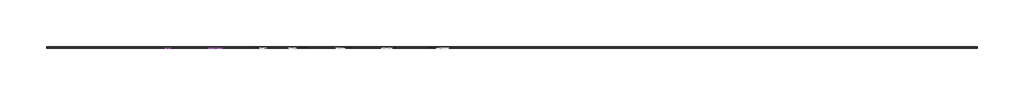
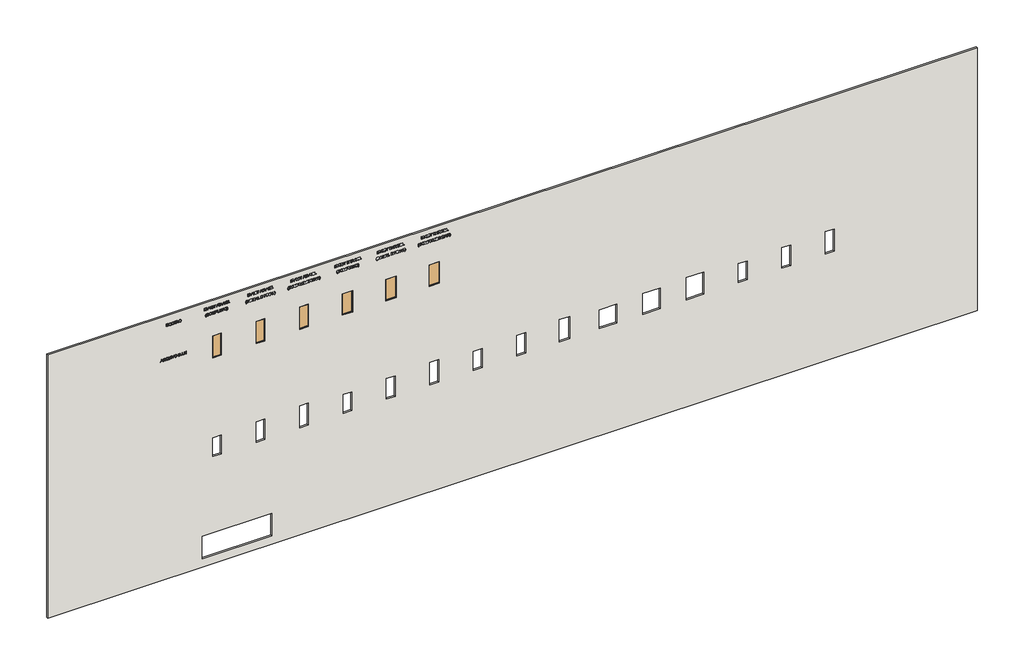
# One storey, part 1 of 5: 6 doors, 3 proxies, 1 wall.
"""IFC4 building model written with IfcOpenShell, lengths in millimetres."""

from ifc_helpers import new_model, si_unit, frame, origin, place, context, project, spatial, polyline, outline, extrude, transform, mapped, element, save
from components import bv1sl_10mm_laminado_7e01d13e, bv1sl_10mm_laminado_0e138f9b, bv1sl_10mm_laminado_d97edf1c, bv8sl_8mm_laminado_ab84e5fa, bv8sl_8mm_laminado_92a510f9, bv8sl_8mm_laminado_66e587da

model = new_model("IFC4")

# Units and contexts
model_context = context("Model", 3, world=origin())
ifc_project = project(units=[si_unit("LENGTHUNIT", "METRE", prefix="MILLI")], contexts=[model_context])

# Site, building, storey
site = spatial("IfcSite", under=ifc_project)
building = spatial("IfcBuilding", under=site)
storey = spatial("IfcBuildingStorey", under=building, Name="01 - Marelli - Planta Baixa - Painel Simples", Elevation=0.0)

# Proxies
placement = place(None, origin())
element("IfcBuildingElementProxy", 1, Name="300mm Arial", ObjectType="300mm Arial", at=placement, inside=storey, context=model_context, shape_type="SweptSolid", body=[
    extrude(outline(polyline([(1600.0, -7636.3146377), (1600.0, -7596.5098058), (1694.1777908, -7562.076051), (1694.1777908, -7437.9526659), (1600.0, -7403.4453347), (1600.0, -7363.6405028), (1901.3689304, -7483.9379153), (1901.3689304, -7516.0172252), (1600.0, -7636.3146377)]), holes=[polyline([(1731.8489071, -7548.243688), (1812.415064, -7518.739552), (1863.6978141, -7499.9775703), (1805.9403409, -7478.8611437), (1731.8489071, -7451.7114525), (1731.8489071, -7548.243688)])]), frame((0.0, 8778.3159498, 0.0), z_axis=(0.0, 1.0, 0.0), x_axis=(0.0, 0.0, 1.0)), (0.0, 0.0, 1.0), 10.0),
    extrude(outline(polyline([(1600.0, -7323.3942126), (1600.0, -7285.7230963), (1731.8489071, -7285.7230963), (1731.8489071, -7240.2528817), (1730.5245319, -7218.4006911), (1723.350833, -7200.484838), (1703.816299, -7180.582422), (1662.4663628, -7152.2555084), (1600.0, -7113.0392877), (1600.0, -7069.2613303), (1681.6698029, -7119.5140108), (1720.4445652, -7150.0482164), (1736.5577966, -7171.4589486), (1746.5457928, -7134.3488523), (1754.5610217, -7119.9669655), (1764.5904046, -7108.3671864), (1789.2017101, -7093.0540983), (1818.8897871, -7087.9497357), (1842.7561316, -7091.0307474), (1864.4703663, -7100.2737825), (1881.9815493, -7114.6763626), (1893.2387384, -7133.2360093), (1899.3363824, -7158.629064), (1901.3689304, -7193.5318683), (1901.3689304, -7323.3942126), (1600.0, -7323.3942126)]), holes=[polyline([(1769.5200234, -7285.7230963), (1863.6978141, -7285.7230963), (1863.6978141, -7191.9131875), (1860.4420585, -7162.1055488), (1850.6747915, -7141.5501423), (1835.8675412, -7129.6031746), (1817.4918355, -7125.620852), (1804.1837044, -7127.7085823), (1791.9240369, -7133.9717732), (1781.7888879, -7144.254075), (1774.8543123, -7158.3991377), (1770.8535956, -7177.1887106), (1769.5200234, -7201.404543), (1769.5200234, -7285.7230963)])]), frame((0.0, 8778.3159498, 0.0), z_axis=(0.0, 1.0, 0.0), x_axis=(0.0, 0.0, 1.0)), (0.0, 0.0, 1.0), 10.0),
    extrude(outline(polyline([(1636.1260119, -6795.6307023), (1659.6520655, -6777.1814202), (1686.9673037, -6764.0664271), (1718.0349382, -6756.2305406), (1752.8181808, -6753.6185784), (1794.6463636, -6757.9227978), (1831.9863862, -6770.8354558), (1863.1827793, -6791.9610794), (1886.5800742, -6820.9041954), (1901.2033836, -6855.7702114), (1906.07782, -6894.6645354), (1901.3137481, -6933.2553567), (1887.0215326, -6967.9466288), (1863.6150407, -6996.93573), (1831.5081396, -7018.4200386), (1793.055274, -7031.7189727), (1750.6108888, -7036.1519507), (1708.2032918, -7031.7097756), (1670.3022493, -7018.3832504), (1638.6460036, -6996.8161684), (1614.9727972, -6967.6523232), (1600.2115321, -6932.8322924), (1595.2911105, -6894.2966534), (1599.5585416, -6855.9449554), (1612.360835, -6821.0881364), (1591.52032, -6790.1308665), (1577.1177399, -6759.063232), (1604.7088895, -6748.9096889), (1617.5295771, -6771.2953083), (1636.1260119, -6795.6307023)]), holes=[polyline([(1686.2315397, -6883.9223811), (1657.3895912, -6893.6344658), (1650.712533, -6873.2721974), (1640.6877487, -6853.9767867), (1634.8936072, -6873.6032912), (1632.9622268, -6894.5173826), (1634.8637168, -6916.2385151), (1640.568187, -6935.9316982), (1650.0756373, -6953.5969318), (1663.3860678, -6969.2342158), (1680.251158, -6982.0296115), (1700.4225876, -6991.1691798), (1723.9003567, -6996.6529208), (1750.6844652, -6998.4808344), (1778.1859436, -6996.6322274), (1802.0499888, -6991.0864063), (1822.2766007, -6981.8433712), (1838.8657795, -6968.903122), (1851.7899338, -6953.1577726), (1861.0214726, -6935.4994369), (1866.5603959, -6915.9281147), (1868.4067037, -6894.4438062), (1864.7554749, -6865.9605427), (1853.8017885, -6840.4019411), (1836.2354232, -6819.2027411), (1812.7461578, -6803.7976826), (1784.0605592, -6794.4166917), (1750.9051944, -6791.2896947), (1721.7321522, -6793.5015852), (1696.4586591, -6800.1372567), (1675.0847152, -6811.1967092), (1657.6103204, -6826.6799427), (1674.2569807, -6852.2477413), (1686.2315397, -6883.9223811)])]), frame((0.0, 8778.3159498, 0.0), z_axis=(0.0, 1.0, 0.0), x_axis=(0.0, 0.0, 1.0)), (0.0, 0.0, 1.0), 10.0),
    extrude(outline(polyline([(1901.3689304, -6499.3385434), (1728.8322747, -6499.3385434), (1681.6698029, -6504.1026152), (1664.9311721, -6510.057705), (1652.7542781, -6518.3948307), (1644.0952556, -6529.5278596), (1637.9102396, -6543.8706589), (1632.9622268, -6582.1855687), (1635.4638243, -6606.3554158), (1642.968617, -6626.4785609), (1655.0811317, -6641.9112106), (1671.4058953, -6652.0095714), (1694.9779341, -6657.5829836), (1728.8322747, -6659.4407877), (1901.3689304, -6659.4407877), (1901.3689304, -6697.111904), (1727.5078995, -6697.111904), (1684.7324205, -6694.2516215), (1652.0553023, -6685.6707739), (1627.6923172, -6670.4036711), (1609.8592375, -6647.4846228), (1598.9331422, -6616.904432), (1595.2911105, -6578.6539015), (1599.4757682, -6539.5480454), (1612.0297412, -6508.7563224), (1631.2515755, -6486.2235502), (1655.4398167, -6471.8945465), (1686.7925597, -6464.2242069), (1727.5078995, -6461.6674271), (1901.3689304, -6461.6674271), (1901.3689304, -6499.3385434)])), frame((0.0, 8778.3159498, 0.0), z_axis=(0.0, 1.0, 0.0), x_axis=(0.0, 0.0, 1.0)), (0.0, 0.0, 1.0), 10.0),
    extrude(outline(polyline([(-6353.3629677, 8778.3159498), (-6391.034084, 8778.3159498), (-6391.034084, 8788.3159498), (-6353.3629677, 8788.3159498), (-6353.3629677, 8778.3159498)])), frame((0.0, 0.0, 1600.0), z_axis=(0.0, 0.0, 1.0), x_axis=(1.0, 0.0, 0.0)), (0.0, 0.0, 1.0), 301.3689304),
    extrude(outline(polyline([(1600.0, -6188.9932922), (1600.0, -6150.0713771), (1901.3689304, -6035.2186183), (1901.3689304, -6075.5384849), (1684.2449769, -6156.0310655), (1635.3166715, -6172.0707205), (1684.2449769, -6188.3311046), (1901.3689304, -6268.602956), (1901.3689304, -6308.9228227), (1600.0, -6188.9932922)])), frame((0.0, 8778.3159498, 0.0), z_axis=(0.0, 1.0, 0.0), x_axis=(0.0, 0.0, 1.0)), (0.0, 0.0, 1.0), 10.0),
    extrude(outline(polyline([(1746.7113397, -6014.3229209), (1708.1665036, -6010.0187016), (1671.7002009, -5997.1060436), (1640.007167, -5975.8424642), (1615.7821376, -5946.485481), (1600.4138672, -5910.8377157), (1595.2911105, -5870.70179), (1599.9264236, -5832.892718), (1613.832363, -5797.7507904), (1636.7514113, -5767.7868019), (1668.4260511, -5745.5115471), (1706.8881137, -5731.6883811), (1750.1694304, -5727.0806591), (1792.8805301, -5731.4584548), (1830.8091638, -5744.5918421), (1862.4286213, -5766.0761506), (1886.2121922, -5795.5067102), (1901.1114131, -5830.9521404), (1906.07782, -5870.4810608), (1903.4336681, -5900.7715446), (1895.5012126, -5928.1465636), (1882.2804534, -5952.6061177), (1863.7713905, -5974.1502071), (1840.5902263, -5991.7257694), (1813.3531631, -6004.2797425), (1782.0602009, -6011.8121263), (1746.7113397, -6014.3229209)]), holes=[polyline([(1746.3434577, -5976.6518046), (1776.8799625, -5974.6882345), (1802.7121764, -5968.797524), (1823.8400992, -5958.9796733), (1840.263731, -5945.2346822), (1852.5762816, -5928.7673644), (1861.3709605, -5910.7825334), (1866.6477679, -5891.2801891), (1868.4067037, -5870.2603316), (1864.7554749, -5841.0964864), (1853.8017885, -5814.9676677), (1836.2078321, -5793.3086153), (1812.6357932, -5777.5540688), (1783.8122389, -5767.9523488), (1750.463736, -5764.7517754), (1723.9256486, -5766.6210758), (1700.5973316, -5772.228977), (1680.478785, -5781.5754789), (1663.5700088, -5794.6605816), (1650.1791041, -5810.642755), (1640.6141723, -5828.6804691), (1634.8752131, -5848.7737238), (1632.9622268, -5870.9225192), (1634.856819, -5892.6988341), (1640.5405959, -5912.557564), (1650.0135572, -5930.4987091), (1663.2757032, -5946.5222692), (1679.8349915, -5959.703941), (1699.19938, -5969.1194208), (1721.3688687, -5974.7687087), (1746.3434577, -5976.6518046)])]), frame((0.0, 8778.3159498, 0.0), z_axis=(0.0, 1.0, 0.0), x_axis=(0.0, 0.0, 1.0)), (0.0, 0.0, 1.0), 10.0),
    extrude(outline(polyline([(1600.0, -5557.5606357), (1600.0, -5443.4436408), (1605.1871361, -5395.1407348), (1611.6066769, -5377.10532), (1620.4910271, -5362.3624491), (1632.7598917, -5350.3235108), (1649.3329756, -5340.399894), (1668.8215242, -5333.7504269), (1689.8367832, -5331.5339379), (1715.055094, -5334.7804965), (1736.7049494, -5344.5201723), (1753.6643094, -5360.2931129), (1764.8111338, -5381.6394656), (1776.5557665, -5363.7695977), (1791.4825785, -5351.0684718), (1808.543106, -5343.4809057), (1826.6888854, -5340.951717), (1846.4073604, -5343.9591523), (1865.2429185, -5352.9814582), (1881.2549824, -5367.3104619), (1892.5029744, -5386.2379906), (1899.1524414, -5410.9320695), (1901.3689304, -5442.560724), (1901.3689304, -5557.5606357), (1600.0, -5557.5606357)]), holes=[polyline([(1778.9378025, -5519.8895194), (1863.6978141, -5519.8895194), (1863.6978141, -5456.3195106), (1859.7614768, -5407.9062401), (1854.1604734, -5395.4166463), (1845.230138, -5386.2012024), (1833.7890079, -5380.5174255), (1820.6556207, -5378.6228333), (1807.1267603, -5380.6553813), (1796.1178916, -5386.7530254), (1787.7577733, -5396.8605832), (1782.175164, -5410.9228724), (1778.9378025, -5451.0955863), (1778.9378025, -5519.8895194)]), polyline([(1637.6711163, -5519.8895194), (1741.2666861, -5519.8895194), (1741.2666861, -5446.3131204), (1740.0066903, -5419.4853259), (1736.2267028, -5399.776048), (1729.3381125, -5385.8609115), (1718.752308, -5376.4155413), (1705.2142506, -5371.007676), (1689.4689012, -5369.2050542), (1675.9124497, -5370.7409615), (1664.0850436, -5375.3486835), (1647.3464128, -5391.0204565), (1639.1426443, -5414.6752688), (1637.6711163, -5442.6343004), (1637.6711163, -5519.8895194)])]), frame((0.0, 8778.3159498, 0.0), z_axis=(0.0, 1.0, 0.0), x_axis=(0.0, 0.0, 1.0)), (0.0, 0.0, 1.0), 10.0),
    extrude(outline(polyline([(-5237.3561471, 8778.3159498), (-5275.0272634, 8778.3159498), (-5275.0272634, 8788.3159498), (-5237.3561471, 8788.3159498), (-5237.3561471, 8778.3159498)])), frame((0.0, 0.0, 1600.0), z_axis=(0.0, 0.0, 1.0), x_axis=(1.0, 0.0, 0.0)), (0.0, 0.0, 1.0), 37.6711163),
    extrude(outline(polyline([(-5119.6339087, 8778.3159498), (-5157.305025, 8778.3159498), (-5157.305025, 8788.3159498), (-5119.6339087, 8788.3159498), (-5119.6339087, 8778.3159498)])), frame((0.0, 0.0, 1600.0), z_axis=(0.0, 0.0, 1.0), x_axis=(1.0, 0.0, 0.0)), (0.0, 0.0, 1.0), 301.3689304),
    extrude(outline(polyline([(-5001.9116702, 8778.3159498), (-5039.5827865, 8778.3159498), (-5039.5827865, 8788.3159498), (-5001.9116702, 8788.3159498), (-5001.9116702, 8778.3159498)])), frame((0.0, 0.0, 1600.0), z_axis=(0.0, 0.0, 1.0), x_axis=(1.0, 0.0, 0.0)), (0.0, 0.0, 1.0), 37.6711163),
    extrude(outline(polyline([(1600.0, -4926.5694376), (1600.0, -4888.8983213), (1863.6978141, -4888.8983213), (1600.0, -4813.1882067), (1600.0, -4762.1261857), (1863.6978141, -4686.4160711), (1600.0, -4686.4160711), (1600.0, -4648.7449548), (1901.3689304, -4648.7449548), (1901.3689304, -4713.5657624), (1692.6326864, -4774.1927152), (1644.5872978, -4787.6571962), (1688.9538664, -4800.0916076), (1901.3689304, -4861.74863), (1901.3689304, -4926.5694376), (1600.0, -4926.5694376)])), frame((0.0, 8778.3159498, 0.0), z_axis=(0.0, 1.0, 0.0), x_axis=(0.0, 0.0, 1.0)), (0.0, 0.0, 1.0), 10.0),
])
element("IfcBuildingElementProxy", 2, Name="300mm Arial", ObjectType="300mm Arial", at=placement, inside=storey, context=model_context, shape_type="SweptSolid", body=[
    extrude(outline(polyline([(5700.0, -6993.7719449), (5700.0, -6956.1008286), (5963.6978141, -6956.1008286), (5700.0, -6880.390714), (5700.0, -6829.328693), (5963.6978141, -6753.6185784), (5700.0, -6753.6185784), (5700.0, -6715.9474621), (6001.3689304, -6715.9474621), (6001.3689304, -6780.7682697), (5792.6326864, -6841.3952225), (5744.5872978, -6854.8597035), (5788.9538664, -6867.2941149), (6001.3689304, -6928.9511373), (6001.3689304, -6993.7719449), (5700.0, -6993.7719449)])), frame((0.0, 8778.3159498, 0.0), z_axis=(0.0, 1.0, 0.0), x_axis=(0.0, 0.0, 1.0)), (0.0, 0.0, 1.0), 10.0),
    extrude(outline(polyline([(5846.7113397, -6664.1496772), (5808.1665036, -6659.8454579), (5771.7002009, -6646.9327998), (5740.007167, -6625.6692205), (5715.7821376, -6596.3122373), (5700.4138672, -6560.664472), (5695.2911105, -6520.5285463), (5699.9264236, -6482.7194742), (5713.832363, -6447.5775466), (5736.7514113, -6417.6135581), (5768.4260511, -6395.3383033), (5806.8881137, -6381.5151374), (5850.1694304, -6376.9074154), (5892.8805301, -6381.2852111), (5930.8091638, -6394.4185983), (5962.4286213, -6415.9029069), (5986.2121922, -6445.3334665), (6001.1114131, -6480.7788967), (6006.07782, -6520.3078171), (6003.4336681, -6550.5983009), (5995.5012126, -6577.9733198), (5982.2804534, -6602.432874), (5963.7713905, -6623.9769633), (5940.5902263, -6641.5525257), (5913.3531631, -6654.1064987), (5882.0602009, -6661.6388826), (5846.7113397, -6664.1496772)]), holes=[polyline([(5846.3434577, -6626.4785609), (5876.8799625, -6624.5149908), (5902.7121764, -6618.6242803), (5923.8400992, -6608.8064296), (5940.263731, -6595.0614385), (5952.5762816, -6578.5941207), (5961.3709605, -6560.6092897), (5966.6477679, -6541.1069454), (5968.4067037, -6520.0870879), (5964.7554749, -6490.9232427), (5953.8017885, -6464.794424), (5936.2078321, -6443.1353716), (5912.6357932, -6427.3808251), (5883.8122389, -6417.779105), (5850.463736, -6414.5785317), (5823.9256486, -6416.4478321), (5800.5973316, -6422.0557332), (5780.478785, -6431.4022352), (5763.5700088, -6444.4873379), (5750.1791041, -6460.4695113), (5740.6141723, -6478.5072254), (5734.8752131, -6498.6004801), (5732.9622268, -6520.7492755), (5734.856819, -6542.5255903), (5740.5405959, -6562.3843203), (5750.0135572, -6580.3254653), (5763.2757032, -6596.3490255), (5779.8349915, -6609.5306972), (5799.19938, -6618.9461771), (5821.3688687, -6624.5954649), (5846.3434577, -6626.4785609)])]), frame((0.0, 8778.3159498, 0.0), z_axis=(0.0, 1.0, 0.0), x_axis=(0.0, 0.0, 1.0)), (0.0, 0.0, 1.0), 10.0),
    extrude(outline(polyline([(5700.0, -6325.1096305), (5700.0, -6216.1429835), (5705.1503479, -6167.6929247), (5711.5055094, -6148.1491937), (5720.2702979, -6131.6772774), (5732.088507, -6117.3298796), (5747.6039302, -6104.1597042), (5767.2580258, -6092.7185741), (5791.4922522, -6083.5583124), (5819.9571216, -6077.5434418), (5852.303146, -6075.5384849), (5890.3789325, -6078.499935), (5923.9665587, -6087.3842852), (5952.5142015, -6102.2283237), (5975.470038, -6123.0688387), (5988.6586075, -6143.3391366), (5997.0279229, -6167.3618309), (6001.3689304, -6221.1461786), (6001.3689304, -6325.1096305), (5700.0, -6325.1096305)]), holes=[polyline([(5737.6711163, -6287.4385141), (5963.6978141, -6287.4385141), (5963.6978141, -6221.8083662), (5962.189498, -6190.06015), (5957.6645494, -6168.3919005), (5945.0829852, -6147.10073), (5924.2608643, -6129.2860444), (5893.9473879, -6117.228712), (5852.8917572, -6113.2096012), (5821.9068962, -6115.2605434), (5795.9068361, -6121.4133697), (5774.7996067, -6131.245016), (5758.4932372, -6144.332418), (5749.6824634, -6156.5093121), (5743.1157698, -6172.2914497), (5739.0322797, -6193.2055411), (5737.6711163, -6220.7782966), (5737.6711163, -6287.4385141)])]), frame((0.0, 8778.3159498, 0.0), z_axis=(0.0, 1.0, 0.0), x_axis=(0.0, 0.0, 1.0)), (0.0, 0.0, 1.0), 10.0),
    extrude(outline(polyline([(5700.0, -6023.7407), (5700.0, -5802.4228917), (5737.6711163, -5802.4228917), (5737.6711163, -5986.0695837), (5836.5577966, -5986.0695837), (5836.5577966, -5816.5495603), (5874.2289129, -5816.5495603), (5874.2289129, -5986.0695837), (5963.6978141, -5986.0695837), (5963.6978141, -5807.1317812), (6001.3689304, -5807.1317812), (6001.3689304, -6023.7407), (5700.0, -6023.7407)])), frame((0.0, 8778.3159498, 0.0), z_axis=(0.0, 1.0, 0.0), x_axis=(0.0, 0.0, 1.0)), (0.0, 0.0, 1.0), 10.0),
    extrude(outline(polyline([(5700.0, -5745.9162172), (5700.0, -5557.5606357), (5737.6711163, -5557.5606357), (5737.6711163, -5708.2451009), (6001.3689304, -5708.2451009), (6001.3689304, -5745.9162172), (5700.0, -5745.9162172)])), frame((0.0, 8778.3159498, 0.0), z_axis=(0.0, 1.0, 0.0), x_axis=(0.0, 0.0, 1.0)), (0.0, 0.0, 1.0), 10.0),
    extrude(outline(polyline([(5846.7113397, -5529.3072985), (5808.1665036, -5525.0030791), (5771.7002009, -5512.0904211), (5740.007167, -5490.8268418), (5715.7821376, -5461.4698586), (5700.4138672, -5425.8220932), (5695.2911105, -5385.6861676), (5699.9264236, -5347.8770955), (5713.832363, -5312.7351679), (5736.7514113, -5282.7711794), (5768.4260511, -5260.4959246), (5806.8881137, -5246.6727586), (5850.1694304, -5242.0650367), (5892.8805301, -5246.4428324), (5930.8091638, -5259.5762196), (5962.4286213, -5281.0605281), (5986.2121922, -5310.4910878), (6001.1114131, -5345.936518), (6006.07782, -5385.4654384), (6003.4336681, -5415.7559222), (5995.5012126, -5443.1309411), (5982.2804534, -5467.5904953), (5963.7713905, -5489.1345846), (5940.5902263, -5506.7101469), (5913.3531631, -5519.26412), (5882.0602009, -5526.7965039), (5846.7113397, -5529.3072985)]), holes=[polyline([(5846.3434577, -5491.6361822), (5876.8799625, -5489.672612), (5902.7121764, -5483.7819016), (5923.8400992, -5473.9640508), (5940.263731, -5460.2190598), (5952.5762816, -5443.751742), (5961.3709605, -5425.7669109), (5966.6477679, -5406.2645667), (5968.4067037, -5385.2447092), (5964.7554749, -5356.080864), (5953.8017885, -5329.9520453), (5936.2078321, -5308.2929928), (5912.6357932, -5292.5384464), (5883.8122389, -5282.9367263), (5850.463736, -5279.736153), (5823.9256486, -5281.6054533), (5800.5973316, -5287.2133545), (5780.478785, -5296.5598565), (5763.5700088, -5309.6449592), (5750.1791041, -5325.6271326), (5740.6141723, -5343.6648467), (5734.8752131, -5363.7581014), (5732.9622268, -5385.9068968), (5734.856819, -5407.6832116), (5740.5405959, -5427.5419416), (5750.0135572, -5445.4830866), (5763.2757032, -5461.5066468), (5779.8349915, -5474.6883185), (5799.19938, -5484.1037983), (5821.3688687, -5489.7530862), (5846.3434577, -5491.6361822)])]), frame((0.0, 8778.3159498, 0.0), z_axis=(0.0, 1.0, 0.0), x_axis=(0.0, 0.0, 1.0)), (0.0, 0.0, 1.0), 10.0),
])
element("IfcBuildingElementProxy", 3, Name="300mm Arial", ObjectType="300mm Arial", at=placement, inside=storey, context=model_context, shape_type="SweptSolid", body=[
    extrude(outline(polyline([(6065.9244535, -2575.3198029), (6065.9244535, -2461.202808), (6071.1115897, -2412.899902), (6077.5311305, -2394.8644872), (6086.4154807, -2380.1216162), (6098.6843452, -2368.0826779), (6115.2574291, -2358.1590611), (6134.7459778, -2351.509594), (6155.7612368, -2349.293105), (6180.9795475, -2352.5396636), (6202.6294029, -2362.2793395), (6219.5887629, -2378.05228), (6230.7355874, -2399.3986328), (6242.4802201, -2381.5287649), (6257.407032, -2368.827639), (6274.4675596, -2361.2400728), (6292.613339, -2358.7108841), (6312.3318139, -2361.7183194), (6331.1673721, -2370.7406253), (6347.1794359, -2385.0696291), (6358.4274279, -2403.9971577), (6365.076895, -2428.6912366), (6367.293384, -2460.3198912), (6367.293384, -2575.3198029), (6065.9244535, -2575.3198029)]), holes=[polyline([(6244.862256, -2537.6486866), (6329.6222677, -2537.6486866), (6329.6222677, -2474.0786778), (6325.6859303, -2425.6654072), (6320.084927, -2413.1758135), (6311.1545915, -2403.9603695), (6299.7134615, -2398.2765927), (6286.5800742, -2396.3820004), (6273.0512139, -2398.4145484), (6262.0423452, -2404.5121925), (6253.6822268, -2414.6197503), (6248.0996175, -2428.6820396), (6244.862256, -2468.8547535), (6244.862256, -2537.6486866)]), polyline([(6103.5955698, -2537.6486866), (6207.1911397, -2537.6486866), (6207.1911397, -2464.0722875), (6205.9311439, -2437.244493), (6202.1511563, -2417.5352151), (6195.262566, -2403.6200787), (6184.6767616, -2394.1747084), (6171.1387042, -2388.7668431), (6155.3933548, -2386.9642213), (6141.8369032, -2388.5001287), (6130.0094971, -2393.1078507), (6113.2708663, -2408.7796236), (6105.0670978, -2432.4344359), (6103.5955698, -2460.3934676), (6103.5955698, -2537.6486866)])]), frame((0.0, 8778.3159498, 0.0), z_axis=(0.0, 1.0, 0.0), x_axis=(0.0, 0.0, 1.0)), (0.0, 0.0, 1.0), 10.0),
    extrude(outline(polyline([(6065.9244535, -2208.4678773), (6065.9244535, -2169.5459622), (6367.293384, -2054.6932033), (6367.293384, -2095.01307), (6150.1694304, -2175.5056505), (6101.2411251, -2191.5453055), (6150.1694304, -2207.8056897), (6367.293384, -2288.077541), (6367.293384, -2328.3974077), (6065.9244535, -2208.4678773)])), frame((0.0, 8778.3159498, 0.0), z_axis=(0.0, 1.0, 0.0), x_axis=(0.0, 0.0, 1.0)), (0.0, 0.0, 1.0), 10.0),
    extrude(outline(polyline([(6065.9244535, -1892.5308198), (6367.293384, -1892.5308198), (6367.293384, -1916.8110315), (6347.5565149, -1930.1191627), (6327.1942465, -1950.3250813), (6308.0459887, -1975.9572593), (6291.9511514, -2005.5441687), (6256.3401742, -2005.5441687), (6275.3596734, -1965.8864897), (6300.7803193, -1930.2019361), (6065.9244535, -1930.2019361), (6065.9244535, -1892.5308198)])), frame((0.0, 8778.3159498, 0.0), z_axis=(0.0, 1.0, 0.0), x_axis=(0.0, 0.0, 1.0)), (0.0, 0.0, 1.0), 10.0),
    extrude(outline(polyline([(6169.5200234, -1803.0619186), (6139.0961824, -1798.5921523), (6111.9832793, -1786.8015344), (6089.7264186, -1768.4350258), (6073.8707046, -1744.2375876), (6064.3793492, -1713.8597318), (6061.215564, -1676.9519706), (6064.1494229, -1646.8868146), (6072.9509996, -1619.9670496), (6087.0408801, -1597.5814302), (6105.83965, -1581.1187109), (6127.6826435, -1570.992759), (6150.9051944, -1567.6174417), (6173.6219076, -1570.5513006), (6193.5059295, -1579.3528773), (6210.3733189, -1594.3348716), (6224.0401351, -1615.809983), (6232.8509088, -1640.9363233), (6242.9492696, -1682.4702006), (6253.5810593, -1722.7164908), (6263.9921197, -1743.9800702), (6275.6355849, -1752.9747849), (6290.1117414, -1755.9730232), (6307.0894955, -1751.7423803), (6321.381711, -1739.0504514), (6331.0937957, -1717.1062904), (6334.3311572, -1685.1189509), (6331.0570075, -1653.8673754), (6321.2345582, -1631.3346032), (6305.0109622, -1616.913629), (6282.5333723, -1609.9974475), (6282.5333723, -1572.3263312), (6307.4941657, -1576.5753683), (6329.6958441, -1587.2623402), (6347.9979733, -1604.1481238), (6361.2601193, -1626.9935957), (6369.316735, -1654.8054745), (6372.0022735, -1686.5904789), (6369.4362966, -1715.929068), (6361.7383659, -1742.4349658), (6349.0832252, -1764.5170825), (6331.6456187, -1780.5843287), (6311.0718181, -1790.3791868), (6289.0080954, -1793.6441395), (6269.2712264, -1791.0045862), (6251.5577083, -1783.0859262), (6236.198635, -1769.7961892), (6223.5251003, -1751.0434045), (6214.4660061, -1728.0047945), (6204.9470595, -1691.9983442), (6190.5628735, -1637.1471388), (6182.7545782, -1621.0706956), (6173.4563607, -1611.5425519), (6162.5578566, -1606.8520565), (6149.9487012, -1605.288558), (6137.0084521, -1607.3762883), (6124.6752082, -1613.6394793), (6113.9330539, -1624.1701014), (6105.7660736, -1639.0601251), (6100.6065286, -1657.4358308), (6098.8866803, -1678.4234986), (6101.1583516, -1702.2622519), (6107.9733656, -1723.5994076), (6118.4763965, -1741.0554083), (6131.8121189, -1753.2506964), (6148.615129, -1761.0681888), (6169.5200234, -1765.3908023), (6169.5200234, -1803.0619186)])), frame((0.0, 8778.3159498, 0.0), z_axis=(0.0, 1.0, 0.0), x_axis=(0.0, 0.0, 1.0)), (0.0, 0.0, 1.0), 10.0),
    extrude(outline(polyline([(6065.9244535, -1435.7685346), (6065.9244535, -1398.0974183), (6329.6222677, -1398.0974183), (6329.6222677, -1299.210738), (6367.293384, -1299.210738), (6367.293384, -1534.6552149), (6329.6222677, -1534.6552149), (6329.6222677, -1435.7685346), (6065.9244535, -1435.7685346)])), frame((0.0, 8778.3159498, 0.0), z_axis=(0.0, 1.0, 0.0), x_axis=(0.0, 0.0, 1.0)), (0.0, 0.0, 1.0), 10.0),
    extrude(outline(polyline([(6065.9244535, -1172.0707205), (6065.9244535, -1138.0784241), (6367.293384, -1053.3184124), (6367.293384, -1087.3107088), (6065.9244535, -1172.0707205)])), frame((0.0, 8778.3159498, 0.0), z_axis=(0.0, 1.0, 0.0), x_axis=(0.0, 0.0, 1.0)), (0.0, 0.0, 1.0), 10.0),
    extrude(outline(polyline([(6065.9244535, -903.6640168), (6065.9244535, -789.5470219), (6071.1115897, -741.2441159), (6077.5311305, -723.2087011), (6086.4154807, -708.4658301), (6098.6843452, -696.4268918), (6115.2574291, -686.503275), (6134.7459778, -679.853808), (6155.7612368, -677.6373189), (6180.9795475, -680.8838776), (6202.6294029, -690.6235534), (6219.5887629, -706.3964939), (6230.7355874, -727.7428467), (6242.4802201, -709.8729788), (6257.407032, -697.1718529), (6274.4675596, -689.5842867), (6292.613339, -687.055098), (6312.3318139, -690.0625333), (6331.1673721, -699.0848393), (6347.1794359, -713.413843), (6358.4274279, -732.3413716), (6365.076895, -757.0354506), (6367.293384, -788.6641051), (6367.293384, -903.6640168), (6065.9244535, -903.6640168)]), holes=[polyline([(6244.862256, -865.9929005), (6329.6222677, -865.9929005), (6329.6222677, -802.4228917), (6325.6859303, -754.0096211), (6320.084927, -741.5200274), (6311.1545915, -732.3045834), (6299.7134615, -726.6208066), (6286.5800742, -724.7262143), (6273.0512139, -726.7587623), (6262.0423452, -732.8564064), (6253.6822268, -742.9639642), (6248.0996175, -757.0262535), (6244.862256, -797.1989674), (6244.862256, -865.9929005)]), polyline([(6103.5955698, -865.9929005), (6207.1911397, -865.9929005), (6207.1911397, -792.4165014), (6205.9311439, -765.5887069), (6202.1511563, -745.879429), (6195.262566, -731.9642926), (6184.6767616, -722.5189224), (6171.1387042, -717.111057), (6155.3933548, -715.3084352), (6141.8369032, -716.8443426), (6130.0094971, -721.4520646), (6113.2708663, -737.1238376), (6105.0670978, -760.7786499), (6103.5955698, -788.7376815), (6103.5955698, -865.9929005)])]), frame((0.0, 8778.3159498, 0.0), z_axis=(0.0, 1.0, 0.0), x_axis=(0.0, 0.0, 1.0)), (0.0, 0.0, 1.0), 10.0),
    extrude(outline(polyline([(6065.9244535, -536.8120912), (6065.9244535, -497.8901761), (6367.293384, -383.0374172), (6367.293384, -423.3572839), (6150.1694304, -503.8498644), (6101.2411251, -519.8895194), (6150.1694304, -536.1499036), (6367.293384, -616.4217549), (6367.293384, -656.7416216), (6065.9244535, -536.8120912)])), frame((0.0, 8778.3159498, 0.0), z_axis=(0.0, 1.0, 0.0), x_axis=(0.0, 0.0, 1.0)), (0.0, 0.0, 1.0), 10.0),
    extrude(outline(polyline([(6065.9244535, -220.8750337), (6367.293384, -220.8750337), (6367.293384, -245.1552454), (6347.5565149, -258.4633766), (6327.1942465, -278.6692952), (6308.0459887, -304.3014732), (6291.9511514, -333.8883826), (6256.3401742, -333.8883826), (6275.3596734, -294.2307036), (6300.7803193, -258.54615), (6065.9244535, -258.54615), (6065.9244535, -220.8750337)])), frame((0.0, 8778.3159498, 0.0), z_axis=(0.0, 1.0, 0.0), x_axis=(0.0, 0.0, 1.0)), (0.0, 0.0, 1.0), 10.0),
    extrude(outline(polyline([(6169.5200234, -131.4061325), (6139.0961824, -126.9363663), (6111.9832793, -115.1457483), (6089.7264186, -96.7792397), (6073.8707046, -72.5818015), (6064.3793492, -42.2039457), (6061.215564, -5.2961846), (6064.1494229, 24.7689715), (6072.9509996, 51.6887365), (6087.0408801, 74.0743559), (6105.83965, 90.5370752), (6127.6826435, 100.6630271), (6150.9051944, 104.0383444), (6173.6219076, 101.1044855), (6193.5059295, 92.3029088), (6210.3733189, 77.3209145), (6224.0401351, 55.845803), (6232.8509088, 30.7194628), (6242.9492696, -10.8144145), (6253.5810593, -51.0607048), (6263.9921197, -72.3242841), (6275.6355849, -81.3189989), (6290.1117414, -84.3172371), (6307.0894955, -80.0865942), (6321.381711, -67.3946653), (6331.0937957, -45.4505043), (6334.3311572, -13.4631649), (6331.0570075, 17.7884106), (6321.2345582, 40.3211828), (6305.0109622, 54.7421571), (6282.5333723, 61.6583386), (6282.5333723, 99.3294549), (6307.4941657, 95.0804178), (6329.6958441, 84.3934459), (6347.9979733, 67.5076623), (6361.2601193, 44.6621904), (6369.316735, 16.8503116), (6372.0022735, -14.9346928), (6369.4362966, -44.2732819), (6361.7383659, -70.7791797), (6349.0832252, -92.8612965), (6331.6456187, -108.9285426), (6311.0718181, -118.7234007), (6289.0080954, -121.9883534), (6269.2712264, -119.3488001), (6251.5577083, -111.4301402), (6236.198635, -98.1404031), (6223.5251003, -79.3876184), (6214.4660061, -56.3490084), (6204.9470595, -20.3425582), (6190.5628735, 34.5086473), (6182.7545782, 50.5850905), (6173.4563607, 60.1132342), (6162.5578566, 64.8037296), (6149.9487012, 66.3672281), (6137.0084521, 64.2794978), (6124.6752082, 58.0163068), (6113.9330539, 47.4856847), (6105.7660736, 32.5956609), (6100.6065286, 14.2199553), (6098.8866803, -6.7677125), (6101.1583516, -30.6064658), (6107.9733656, -51.9436215), (6118.4763965, -69.3996222), (6131.8121189, -81.5949104), (6148.615129, -89.4124028), (6169.5200234, -93.7350162), (6169.5200234, -131.4061325)])), frame((0.0, 8778.3159498, 0.0), z_axis=(0.0, 1.0, 0.0), x_axis=(0.0, 0.0, 1.0)), (0.0, 0.0, 1.0), 10.0),
    extrude(outline(polyline([(6065.9244535, 160.5450189), (6065.9244535, 348.9006004), (6103.5955698, 348.9006004), (6103.5955698, 198.2161352), (6367.293384, 198.2161352), (6367.293384, 160.5450189), (6065.9244535, 160.5450189)])), frame((0.0, 8778.3159498, 0.0), z_axis=(0.0, 1.0, 0.0), x_axis=(0.0, 0.0, 1.0)), (0.0, 0.0, 1.0), 10.0),
    extrude(outline(polyline([(5249.3155348, -2386.9642213), (5249.3155348, -2358.7108841), (5297.5540614, -2387.5528325), (5345.8109821, -2408.1542243), (5394.0862969, -2420.5150593), (5442.3800058, -2424.6353376), (5480.2534572, -2422.2624988), (5517.9429677, -2415.1439822), (5575.7740173, -2393.9539792), (5635.4444769, -2358.7108841), (5635.4444769, -2386.9642213), (5584.934279, -2421.6554935), (5534.2033518, -2445.9724934), (5489.4137189, -2458.2229638), (5442.600735, -2462.3064539), (5389.2210575, -2456.8434063), (5337.68079, -2440.4542634), (5290.2791949, -2416.1556576), (5249.3155348, -2386.9642213)])), frame((0.0, 8778.3159498, 0.0), z_axis=(0.0, 1.0, 0.0), x_axis=(0.0, 0.0, 1.0)), (0.0, 0.0, 1.0), 10.0),
    extrude(outline(polyline([(5441.2027835, -2104.430849), (5408.9395325, -2116.6169401), (5385.7261786, -2136.3997944), (5371.7098746, -2162.6021895), (5367.0377732, -2194.0469031), (5370.4682728, -2221.0218504), (5380.7597717, -2246.028629), (5397.9858461, -2266.8875381), (5422.2200725, -2281.4188769), (5452.3128197, -2289.9445422), (5487.1144565, -2292.7864306), (5515.5333406, -2290.3860005), (5543.1060961, -2283.1847105), (5567.4966724, -2270.0605203), (5586.3690188, -2249.8913899), (5598.4539423, -2223.3119158), (5602.4822501, -2190.9566943), (5598.8494154, -2162.8872981), (5587.9509113, -2140.0418262), (5569.1061561, -2122.1995494), (5541.6345681, -2109.1397386), (5550.6108888, -2071.4686223), (5588.4291579, -2088.1060855), (5603.751443, -2099.9081998), (5616.6824952, -2114.0325691), (5626.9510013, -2130.2124791), (5634.2856486, -2148.1812153), (5640.1533665, -2189.4851663), (5635.6192209, -2227.3402236), (5622.0167841, -2261.884343), (5599.6771499, -2291.0113999), (5568.9314122, -2312.6152701), (5530.9843844, -2325.9969777), (5487.0408801, -2330.4575469), (5445.3782441, -2326.5120125), (5406.4747231, -2314.6754093), (5373.3837376, -2295.2880281), (5349.1587083, -2268.6901599), (5334.3146698, -2233.9896907), (5329.3666569, -2190.2945067), (5331.0014325, -2167.8720991), (5335.9057594, -2147.2523133), (5344.0796375, -2128.4351492), (5355.5230668, -2111.4206069), (5370.0796975, -2096.5443788), (5387.5931797, -2084.142157), (5408.0635135, -2074.2139417), (5431.4906988, -2066.7597327), (5441.2027835, -2104.430849)])), frame((0.0, 8778.3159498, 0.0), z_axis=(0.0, 1.0, 0.0), x_axis=(0.0, 0.0, 1.0)), (0.0, 0.0, 1.0), 10.0),
    extrude(outline(polyline([(5480.7868861, -2029.0886164), (5442.2420501, -2024.7843971), (5405.7757473, -2011.8717391), (5374.0827134, -1990.6081597), (5349.8576841, -1961.2511765), (5334.4894137, -1925.6034112), (5329.3666569, -1885.4674855), (5334.0019701, -1847.6584135), (5347.9079095, -1812.5164859), (5370.8269578, -1782.5524974), (5402.5015976, -1760.2772425), (5440.9636602, -1746.4540766), (5484.2449769, -1741.8463546), (5526.9560765, -1746.2241503), (5564.8847102, -1759.3575376), (5596.5041677, -1780.8418461), (5620.2877387, -1810.2724057), (5635.1869595, -1845.7178359), (5640.1533665, -1885.2467563), (5637.5092146, -1915.5372401), (5629.5767591, -1942.9122591), (5616.3559999, -1967.3718132), (5597.846937, -1988.9159026), (5574.6657728, -2006.4914649), (5547.4287096, -2019.045438), (5516.1357474, -2026.5778218), (5480.7868861, -2029.0886164)]), holes=[polyline([(5480.4190041, -1991.4175001), (5510.955509, -1989.45393), (5536.7877229, -1983.5632195), (5557.9156457, -1973.7453688), (5574.3392775, -1960.0003777), (5586.651828, -1943.5330599), (5595.446507, -1925.5482289), (5600.7233144, -1906.0458846), (5602.4822501, -1885.0260271), (5598.8310213, -1855.8621819), (5587.8773349, -1829.7333632), (5570.2833785, -1808.0743108), (5546.7113397, -1792.3197643), (5517.8877854, -1782.7180443), (5484.5392825, -1779.5174709), (5458.0011951, -1781.3867713), (5434.672878, -1786.9946724), (5414.5543314, -1796.3411744), (5397.6455552, -1809.4262771), (5384.2546506, -1825.4084505), (5374.6897187, -1843.4461646), (5368.9507596, -1863.5394193), (5367.0377732, -1885.6882147), (5368.9323655, -1907.4645296), (5374.6161423, -1927.3232595), (5384.0891037, -1945.2644046), (5397.3512496, -1961.2879647), (5413.9105379, -1974.4696365), (5433.2749265, -1983.8851163), (5455.4444152, -1989.5344042), (5480.4190041, -1991.4175001)])]), frame((0.0, 8778.3159498, 0.0), z_axis=(0.0, 1.0, 0.0), x_axis=(0.0, 0.0, 1.0)), (0.0, 0.0, 1.0), 10.0),
    extrude(outline(polyline([(5334.0755465, -1690.0485697), (5334.0755465, -1652.3774534), (5597.7733606, -1652.3774534), (5334.0755465, -1576.6673388), (5334.0755465, -1525.6053178), (5597.7733606, -1449.8952032), (5334.0755465, -1449.8952032), (5334.0755465, -1412.2240869), (5635.4444769, -1412.2240869), (5635.4444769, -1477.0448945), (5426.7082328, -1537.6718473), (5378.6628443, -1551.1363283), (5423.0294129, -1563.5707397), (5635.4444769, -1625.2277621), (5635.4444769, -1690.0485697), (5334.0755465, -1690.0485697)])), frame((0.0, 8778.3159498, 0.0), z_axis=(0.0, 1.0, 0.0), x_axis=(0.0, 0.0, 1.0)), (0.0, 0.0, 1.0), 10.0),
    extrude(outline(polyline([(5334.0755465, -1346.2996334), (5334.0755465, -1308.6285171), (5456.5066745, -1308.6285171), (5456.5066745, -1232.0354857), (5458.1713405, -1202.8371516), (5463.1653386, -1178.5178524), (5471.4886687, -1159.0775882), (5483.1413309, -1144.516359), (5497.1990217, -1133.9098612), (5512.7374374, -1126.3337914), (5529.7565782, -1121.7881495), (5548.2564441, -1120.2729355), (5569.7131614, -1122.5170157), (5589.3488629, -1129.2492562), (5605.9955232, -1139.6695137), (5618.4851169, -1152.9776449), (5627.2131173, -1169.5047435), (5632.5749974, -1189.5819034), (5635.4444769, -1234.6106596), (5635.4444769, -1346.2996334), (5334.0755465, -1346.2996334)]), holes=[polyline([(5494.1777908, -1308.6285171), (5597.7733606, -1308.6285171), (5597.7733606, -1230.7111105), (5595.1981866, -1193.0399942), (5588.8706163, -1178.812158), (5578.1284621, -1167.6193483), (5563.8546407, -1160.362876), (5546.9320689, -1157.9440518), (5524.6568141, -1162.0459361), (5508.0101538, -1174.3515888), (5497.6358815, -1196.4245085), (5494.1777908, -1229.8281937), (5494.1777908, -1308.6285171)])]), frame((0.0, 8778.3159498, 0.0), z_axis=(0.0, 1.0, 0.0), x_axis=(0.0, 0.0, 1.0)), (0.0, 0.0, 1.0), 10.0),
    extrude(outline(polyline([(5334.0755465, -1068.4751506), (5334.0755465, -880.1195691), (5371.7466628, -880.1195691), (5371.7466628, -1030.8040343), (5635.4444769, -1030.8040343), (5635.4444769, -1068.4751506), (5334.0755465, -1068.4751506)])), frame((0.0, 8778.3159498, 0.0), z_axis=(0.0, 1.0, 0.0), x_axis=(0.0, 0.0, 1.0)), (0.0, 0.0, 1.0), 10.0),
    extrude(outline(polyline([(5334.0755465, -837.7395632), (5334.0755465, -616.4217549), (5371.7466628, -616.4217549), (5371.7466628, -800.0684469), (5470.6333431, -800.0684469), (5470.6333431, -630.5484236), (5508.3044594, -630.5484236), (5508.3044594, -800.0684469), (5597.7733606, -800.0684469), (5597.7733606, -621.1306445), (5635.4444769, -621.1306445), (5635.4444769, -837.7395632), (5334.0755465, -837.7395632)])), frame((0.0, 8778.3159498, 0.0), z_axis=(0.0, 1.0, 0.0), x_axis=(0.0, 0.0, 1.0)), (0.0, 0.0, 1.0), 10.0),
    extrude(outline(polyline([(5334.0755465, -484.5728479), (5334.0755465, -446.9017316), (5597.7733606, -446.9017316), (5597.7733606, -348.0150513), (5635.4444769, -348.0150513), (5635.4444769, -583.4595282), (5597.7733606, -583.4595282), (5597.7733606, -484.5728479), (5334.0755465, -484.5728479)])), frame((0.0, 8778.3159498, 0.0), z_axis=(0.0, 1.0, 0.0), x_axis=(0.0, 0.0, 1.0)), (0.0, 0.0, 1.0), 10.0),
    extrude(outline(polyline([(5480.7868861, -319.761714), (5442.2420501, -315.4574947), (5405.7757473, -302.5448367), (5374.0827134, -281.2812573), (5349.8576841, -251.9242741), (5334.4894137, -216.2765088), (5329.3666569, -176.1405831), (5334.0019701, -138.3315111), (5347.9079095, -103.1895835), (5370.8269578, -73.225595), (5402.5015976, -50.9503402), (5440.9636602, -37.1271742), (5484.2449769, -32.5194522), (5526.9560765, -36.8972479), (5564.8847102, -50.0306352), (5596.5041677, -71.5149437), (5620.2877387, -100.9455033), (5635.1869595, -136.3909335), (5640.1533665, -175.9198539), (5637.5092146, -206.2103377), (5629.5767591, -233.5853567), (5616.3559999, -258.0449108), (5597.846937, -279.5890002), (5574.6657728, -297.1645625), (5547.4287096, -309.7185356), (5516.1357474, -317.2509194), (5480.7868861, -319.761714)]), holes=[polyline([(5480.4190041, -282.0905977), (5510.955509, -280.1270276), (5536.7877229, -274.2363171), (5557.9156457, -264.4184664), (5574.3392775, -250.6734753), (5586.651828, -234.2061575), (5595.446507, -216.2213265), (5600.7233144, -196.7189822), (5602.4822501, -175.6991247), (5598.8310213, -146.5352796), (5587.8773349, -120.4064608), (5570.2833785, -98.7474084), (5546.7113397, -82.9928619), (5517.8877854, -73.3911419), (5484.5392825, -70.1905685), (5458.0011951, -72.0598689), (5434.672878, -77.6677701), (5414.5543314, -87.014272), (5397.6455552, -100.0993747), (5384.2546506, -116.0815481), (5374.6897187, -134.1192622), (5368.9507596, -154.2125169), (5367.0377732, -176.3613123), (5368.9323655, -198.1376272), (5374.6161423, -217.9963571), (5384.0891037, -235.9375022), (5397.3512496, -251.9610623), (5413.9105379, -265.1427341), (5433.2749265, -274.5582139), (5455.4444152, -280.2075018), (5480.4190041, -282.0905977)])]), frame((0.0, 8778.3159498, 0.0), z_axis=(0.0, 1.0, 0.0), x_axis=(0.0, 0.0, 1.0)), (0.0, 0.0, 1.0), 10.0),
    extrude(outline(polyline([(5249.3155348, 23.9872223), (5290.2791949, 53.0407028), (5337.68079, 77.3668998), (5389.2210575, 93.8388161), (5442.600735, 99.3294549), (5489.4137189, 95.2459647), (5534.2033518, 82.9954943), (5584.934279, 58.6784944), (5635.4444769, 23.9872223), (5635.4444769, -4.266115), (5575.1854061, 31.1977094), (5546.8400984, 43.1722683), (5517.2807801, 52.1669831), (5479.9775458, 59.2854997), (5442.3800058, 61.6583386), (5394.0862969, 57.5380602), (5345.8109821, 45.1772252), (5297.5540614, 24.5758335), (5249.3155348, -4.266115), (5249.3155348, 23.9872223)])), frame((0.0, 8778.3159498, 0.0), z_axis=(0.0, 1.0, 0.0), x_axis=(0.0, 0.0, 1.0)), (0.0, 0.0, 1.0), 10.0),
])

# Doors
bv1sl_10mm_laminado_shape = bv1sl_10mm_laminado_7e01d13e(model_context)
element("IfcDoor", 4, ObjectType="Mobiliário_Mobiliário de Escritório_Painel Vidro Simples - BVST e BVSL (Completo)_Marelli : BV1SL - 10mm - Laminado", at=placement, inside=storey, context=model_context, shape_type="MappedRepresentation", body=[
    mapped(bv1sl_10mm_laminado_shape, transform((-1124.9818251, 8888.3159498, 0.0), x_axis=(-1.0, 0.0, 0.0), y_axis=(0.0, -1.0, 0.0), z_axis=(0.0, 0.0, 1.0))),
])
bv1sl_10mm_laminado_2_shape = bv1sl_10mm_laminado_0e138f9b(model_context)
element("IfcDoor", 5, ObjectType="Mobiliário_Mobiliário de Escritório_Painel Vidro Simples - BVST e BVSL (Inicial ou Final)_Marelli : BV1SL - 10mm - Laminado", at=placement, inside=storey, context=model_context, shape_type="MappedRepresentation", body=[
    mapped(bv1sl_10mm_laminado_2_shape, transform((3875.0181749, 8888.3159498, 0.0), x_axis=(-1.0, 0.0, 0.0), y_axis=(0.0, -1.0, 0.0), z_axis=(0.0, 0.0, 1.0))),
])
bv1sl_10mm_laminado_3_shape = bv1sl_10mm_laminado_d97edf1c(model_context)
element("IfcDoor", 6, ObjectType="Mobiliário_Mobiliário de Escritório_Painel Vidro Simples - BVST e BVSL (Complementar)_Marelli : BV1SL - 10mm - Laminado", at=placement, inside=storey, context=model_context, shape_type="MappedRepresentation", body=[
    mapped(bv1sl_10mm_laminado_3_shape, transform((8875.0181749, 8888.3159498, 0.0), x_axis=(-1.0, 0.0, 0.0), y_axis=(0.0, -1.0, 0.0), z_axis=(0.0, 0.0, 1.0))),
])
bv8sl_8mm_laminado_shape = bv8sl_8mm_laminado_ab84e5fa(model_context)
element("IfcDoor", 7, ObjectType="Mobiliário_Mobiliário de Escritório_Painel Vidro Simples - BVST e BVSL (Completo)_Marelli : BV8SL - 8mm - Laminado", at=placement, inside=storey, context=model_context, shape_type="MappedRepresentation", body=[
    mapped(bv8sl_8mm_laminado_shape, transform((13875.0181749, 8888.3159498, 0.0), x_axis=(1.0, 0.0, 0.0), y_axis=(0.0, 1.0, 0.0), z_axis=(0.0, 0.0, 1.0))),
])
bv8sl_8mm_laminado_2_shape = bv8sl_8mm_laminado_92a510f9(model_context)
element("IfcDoor", 8, ObjectType="Mobiliário_Mobiliário de Escritório_Painel Vidro Simples - BVST e BVSL (Inicial ou Final)_Marelli : BV8SL - 8mm - Laminado", at=placement, inside=storey, context=model_context, shape_type="MappedRepresentation", body=[
    mapped(bv8sl_8mm_laminado_2_shape, transform((18875.0181749, 8888.3159498, 0.0), x_axis=(1.0, 0.0, 0.0), y_axis=(0.0, 1.0, 0.0), z_axis=(0.0, 0.0, 1.0))),
])
bv8sl_8mm_laminado_3_shape = bv8sl_8mm_laminado_66e587da(model_context)
element("IfcDoor", 9, ObjectType="Mobiliário_Mobiliário de Escritório_Painel Vidro Simples - BVST e BVSL (Complementar)_Marelli : BV8SL - 8mm - Laminado", at=placement, inside=storey, context=model_context, shape_type="MappedRepresentation", body=[
    mapped(bv8sl_8mm_laminado_3_shape, transform((23875.0181749, 8888.3159498, 0.0), x_axis=(-1.0, 0.0, 0.0), y_axis=(0.0, -1.0, 0.0), z_axis=(0.0, 0.0, 1.0))),
])

# Wall
element("IfcWall", 10, ObjectType="Genérico - 200 mm", at=placement, inside=storey, context=model_context, shape_type="SweptSolid", body=[
    extrude(outline(polyline([(-25000.0, -20624.9818251), (-25000.0, 86375.0181749), (7000.0, 86375.0181749), (7000.0, -20624.9818251), (-25000.0, -20624.9818251)]), holes=[polyline([(0.0, 8375.0181749), (2700.0, 8375.0181749), (2700.0, 9375.0181749), (0.0, 9375.0181749), (0.0, 8375.0181749)]), polyline([(0.0, 23275.0181749), (2600.0, 23275.0181749), (2600.0, 24475.0181749), (0.0, 24475.0181749), (0.0, 23275.0181749)]), polyline([(0.0, -1624.9818251), (2700.0, -1624.9818251), (2700.0, -624.9818251), (0.0, -624.9818251), (0.0, -1624.9818251)]), polyline([(2600.0, 14475.0181749), (0.0, 14475.0181749), (0.0, 13275.0181749), (2600.0, 13275.0181749), (2600.0, 14475.0181749)]), polyline([(0.0, 3375.0181749), (2700.0, 3375.0181749), (2700.0, 4375.0181749), (0.0, 4375.0181749), (0.0, 3375.0181749)]), polyline([(2600.0, 19475.0181749), (0.0, 19475.0181749), (0.0, 18275.0181749), (2600.0, 18275.0181749), (2600.0, 19475.0181749)]), polyline([(-12000.0, -1624.9818251), (-9700.0, -1624.9818251), (-9700.0, -624.9818251), (-12000.0, -624.9818251), (-12000.0, -1624.9818251)]), polyline([(-12000.0, 13375.0181749), (-9700.0, 13375.0181749), (-9700.0, 14375.0181749), (-12000.0, 14375.0181749), (-12000.0, 13375.0181749)]), polyline([(-12000.0, 28375.0181749), (-9700.0, 28375.0181749), (-9700.0, 29375.0181749), (-12000.0, 29375.0181749), (-12000.0, 28375.0181749)]), polyline([(-9700.0, 44875.0181749), (-12000.0, 44875.0181749), (-12000.0, 42875.0181749), (-9700.0, 42875.0181749), (-9700.0, 44875.0181749)]), polyline([(-9700.0, 59875.0181749), (-12000.0, 59875.0181749), (-12000.0, 58875.0181749), (-9700.0, 58875.0181749), (-9700.0, 59875.0181749)]), polyline([(-12000.0, 3375.0181749), (-9500.0, 3375.0181749), (-9500.0, 4375.0181749), (-12000.0, 4375.0181749), (-12000.0, 3375.0181749)]), polyline([(-12000.0, 8375.0181749), (-9300.0, 8375.0181749), (-9300.0, 9375.0181749), (-12000.0, 9375.0181749), (-12000.0, 8375.0181749)]), polyline([(-12000.0, 18375.0181749), (-9500.0, 18375.0181749), (-9500.0, 19375.0181749), (-12000.0, 19375.0181749), (-12000.0, 18375.0181749)]), polyline([(-12000.0, 23375.0181749), (-9300.0, 23375.0181749), (-9300.0, 24375.0181749), (-12000.0, 24375.0181749), (-12000.0, 23375.0181749)]), polyline([(-12000.0, 33375.0181749), (-9500.0, 33375.0181749), (-9500.0, 34375.0181749), (-12000.0, 34375.0181749), (-12000.0, 33375.0181749)]), polyline([(-12000.0, 38275.0181749), (-9300.0, 38275.0181749), (-9300.0, 39475.0181749), (-12000.0, 39475.0181749), (-12000.0, 38275.0181749)]), polyline([(-9500.0, 49875.0181749), (-12000.0, 49875.0181749), (-12000.0, 47875.0181749), (-9500.0, 47875.0181749), (-9500.0, 49875.0181749)]), polyline([(-9300.0, 54875.0181749), (-12000.0, 54875.0181749), (-12000.0, 52875.0181749), (-9300.0, 52875.0181749), (-9300.0, 54875.0181749)]), polyline([(-9500.0, 64875.0181749), (-12000.0, 64875.0181749), (-12000.0, 63875.0181749), (-9500.0, 63875.0181749), (-9500.0, 64875.0181749)]), polyline([(-9300.0, 69875.0181749), (-12000.0, 69875.0181749), (-12000.0, 68875.0181749), (-9300.0, 68875.0181749), (-9300.0, 69875.0181749)]), polyline([(-24000.0, -2824.9818251), (-21300.0, -2824.9818251), (-21300.0, 5175.0181749), (-24000.0, 5175.0181749), (-24000.0, -2824.9818251)])]), frame((0.0, 8788.3159498, 0.0), z_axis=(0.0, 1.0, 0.0), x_axis=(0.0, 0.0, 1.0)), (0.0, 0.0, 1.0), 200.0),
])

save(model, "model.ifc")
